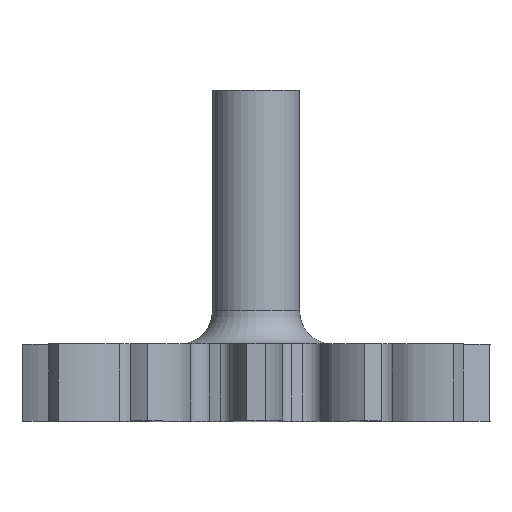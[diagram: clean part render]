
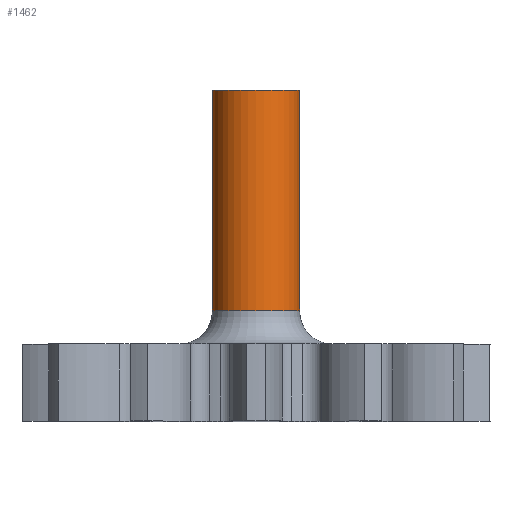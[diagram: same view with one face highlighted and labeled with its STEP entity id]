
A CAD part, top view. The second image highlights one B-rep face of the part: STEP entity #1462.
In plain terms, the highlighted cylindrical face has radius 3.95 mm (diameter 7.9 mm), a full revolution.
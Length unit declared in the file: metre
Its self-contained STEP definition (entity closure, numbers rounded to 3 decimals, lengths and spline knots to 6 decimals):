
#133=CYLINDRICAL_SURFACE('',#1630,0.00395);
#723=ORIENTED_EDGE('',*,*,#957,.T.);
#724=ORIENTED_EDGE('',*,*,#737,.T.);
#737=EDGE_CURVE('',#962,#962,#1113,.T.);
#957=EDGE_CURVE('',#1110,#1110,#1212,.F.);
#962=VERTEX_POINT('',#2032);
#1110=VERTEX_POINT('',#3411);
#1113=CIRCLE('',#1481,0.00395);
#1212=CIRCLE('',#1631,0.00395);
#1291=EDGE_LOOP('',(#723));
#1292=EDGE_LOOP('',(#724));
#1375=FACE_BOUND('',#1291,.T.);
#1376=FACE_BOUND('',#1292,.T.);
#1462=ADVANCED_FACE('',(#1375,#1376),#133,.T.);
#1481=AXIS2_PLACEMENT_3D('',#2031,#1641,#1642);
#1630=AXIS2_PLACEMENT_3D('',#3409,#2012,#2013);
#1631=AXIS2_PLACEMENT_3D('',#3410,#2014,#2015);
#1641=DIRECTION('',(0.,-1.,0.));
#1642=DIRECTION('',(0.,0.,-1.));
#2012=DIRECTION('',(0.,-1.,0.));
#2013=DIRECTION('',(0.,0.,-1.));
#2014=DIRECTION('',(0.,-1.,0.));
#2015=DIRECTION('',(0.,0.,-1.));
#2031=CARTESIAN_POINT('',(0.,0.023,0.));
#2032=CARTESIAN_POINT('',(0.,0.023,-0.00395));
#3409=CARTESIAN_POINT('',(0.,0.023,0.));
#3410=CARTESIAN_POINT('',(0.,0.003,0.));
#3411=CARTESIAN_POINT('',(0.,0.003,-0.00395));
